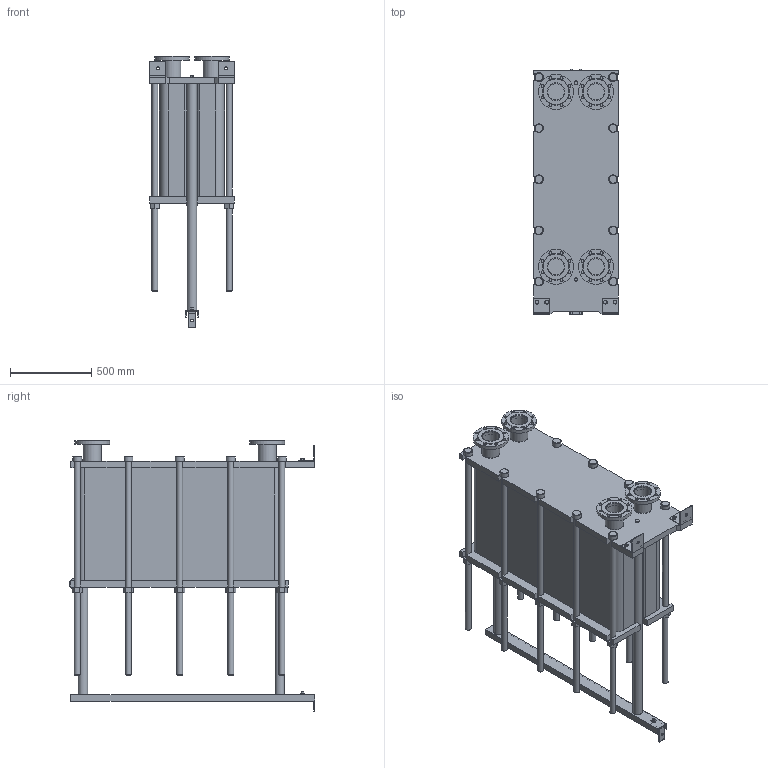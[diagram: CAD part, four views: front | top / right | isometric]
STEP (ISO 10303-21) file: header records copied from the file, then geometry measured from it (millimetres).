
FILE_DESCRIPTION(/* description */ (''),/* implementation_level */ '2;1');
FILE_NAME(/* name */ 'C:\Users\zhuro\Desktop\ENCO\TO\ЭН-04\ЭН-0,5-04-201-1.stp',/* time_stamp */ '2022-06-06T11:03:28+03:00',/* author */ ('zhuro'),/* organization */ (''),/* preprocessor_version */ 'ST-DEVELOPER v18.1',/* originating_system */ 'Autodesk Inventor 2022',/* authorisation */ '');
FILE_SCHEMA (('AUTOMOTIVE_DESIGN { 1 0 10303 214 3 1 1 }'));
Length unit declared in the file: millimetre
Products named in the file (1): ЭН-0,5-04-201-1
Bounding box: 520 x 1510 x 1670.5 mm (x, y, z)
Volume: 423198685.2 mm3; surface area: 10576261.5 mm2
Topology: 45 solids, 45 shells, 668 faces, 1611 edges, 1048 vertices
Faces by surface type: plane 457, cylinder 166, cone 39, torus 6
Full cylindrical faces by diameter (mm): 8 x4, 10 x2, 16 x8, 18 x35, 36 x25, 40 x2, 42 x1, 45 x4, 54 x10, 57 x2, 60 x10, 68 x2, 100 x4, 110 x8, 215 x4
Entity records: 23607 total; most frequent: CARTESIAN_POINT 7348, DIRECTION 3371, ORIENTED_EDGE 3142, EDGE_CURVE 1571, AXIS2_PLACEMENT_3D 1199, VERTEX_POINT 1044, LINE 973, VECTOR 973
